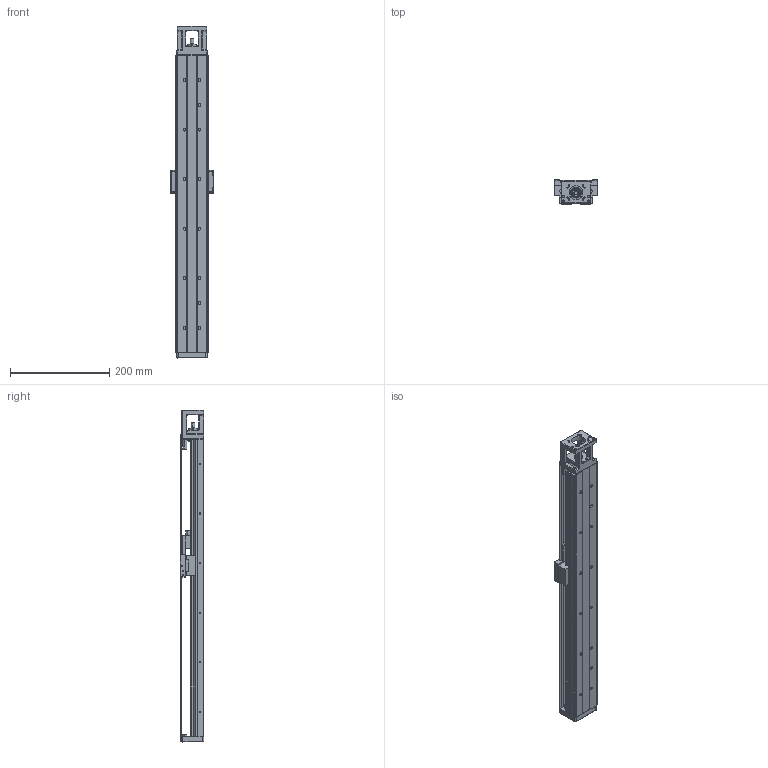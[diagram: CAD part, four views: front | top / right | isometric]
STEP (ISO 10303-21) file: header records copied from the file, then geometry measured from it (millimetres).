
FILE_DESCRIPTION (( 'STEP AP203' ), '1' );
FILE_NAME ('hkk60-600a1f0c.STEP', '2019-10-31T03:32:01', ( '微软用户' ), ( '微软中国' ), 'SwSTEP 2.0', 'SolidWorks 2016', '' );
FILE_SCHEMA (( 'CONFIG_CONTROL_DESIGN' ));
Length unit declared in the file: millimetre
Products named in the file (3): hkk60-600a1f0s; hkk60賑怢_10; hkk60-600a1f0c
Assembly tree (2 placements, depth 2):
  hkk60-600a1f0c
    hkk60-600a1f0s
    hkk60賑怢_10
Bounding box: 86 x 48 x 670 mm (x, y, z)
Volume: 922333.6 mm3; surface area: 315167.1 mm2
Topology: 41 solids, 49 shells, 1559 faces, 4011 edges, 2481 vertices
Faces by surface type: cylinder 584, plane 521, cone 221, bspline 85, sphere 76, torus 72
Entity records: 66003 total; most frequent: CARTESIAN_POINT 29343, ORIENTED_EDGE 7638, DIRECTION 7320, EDGE_CURVE 3819, AXIS2_PLACEMENT_3D 2711, VERTEX_POINT 2433, LINE 1898, VECTOR 1898
